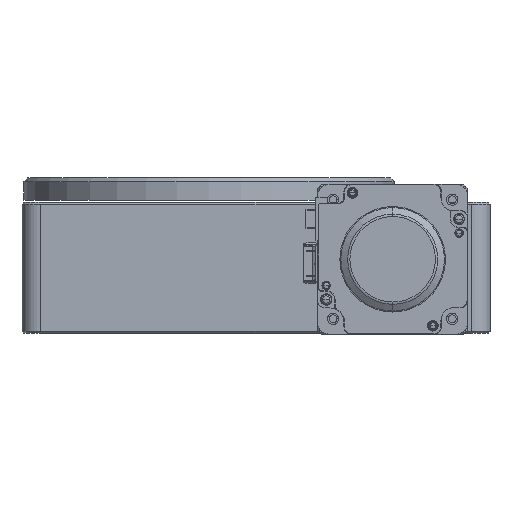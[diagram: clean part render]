
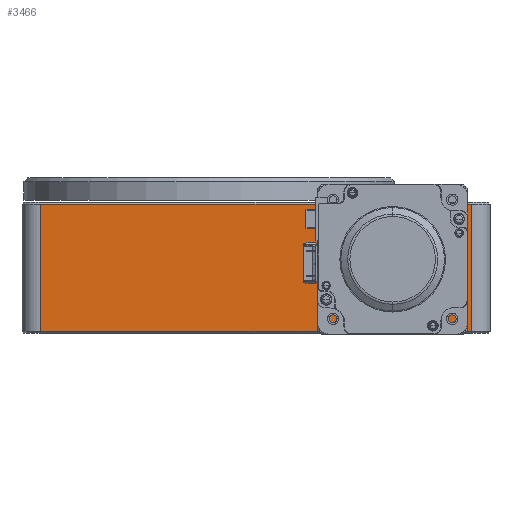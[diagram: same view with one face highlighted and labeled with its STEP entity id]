
A CAD part, front view. The second image highlights one B-rep face of the part: STEP entity #3466.
In plain terms, the highlighted planar face has unit normal (0, -1, 0).
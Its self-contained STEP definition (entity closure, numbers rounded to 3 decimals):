
#266 = LINE ( 'NONE', #1787, #16777 ) ;
#412 = VERTEX_POINT ( 'NONE', #13055 ) ;
#449 = VERTEX_POINT ( 'NONE', #14352 ) ;
#1787 = CARTESIAN_POINT ( 'NONE',  ( -106.055, -99.051, 319. ) ) ;
#1903 = DIRECTION ( 'NONE',  ( 1., 0., 0. ) ) ;
#2006 = DIRECTION ( 'NONE',  ( 0., -1., 0. ) ) ;
#2138 = ORIENTED_EDGE ( 'NONE', *, *, #5073, .F. ) ;
#2283 = ORIENTED_EDGE ( 'NONE', *, *, #6056, .T. ) ;
#3071 = ORIENTED_EDGE ( 'NONE', *, *, #15191, .F. ) ;
#3199 = CARTESIAN_POINT ( 'NONE',  ( 93.945, -99.051, 289.5 ) ) ;
#3466 = ADVANCED_FACE ( 'NONE', ( #16546, #8482 ), #13458, .F. ) ;
#3774 = ORIENTED_EDGE ( 'NONE', *, *, #15737, .T. ) ;
#4081 = DIRECTION ( 'NONE',  ( 0., 0., -1. ) ) ;
#4125 = ORIENTED_EDGE ( 'NONE', *, *, #9246, .F. ) ;
#4252 = CARTESIAN_POINT ( 'NONE',  ( -106.055, -99.051, 333. ) ) ;
#4493 = DIRECTION ( 'NONE',  ( 0., -1., 0. ) ) ;
#4550 = CARTESIAN_POINT ( 'NONE',  ( 81.945, -99.051, 289.5 ) ) ;
#5073 = EDGE_CURVE ( 'NONE', #412, #8276, #15853, .T. ) ;
#6006 = ORIENTED_EDGE ( 'NONE', *, *, #11577, .T. ) ;
#6056 = EDGE_CURVE ( 'NONE', #12892, #8276, #12946, .T. ) ;
#6058 = CARTESIAN_POINT ( 'NONE',  ( 81.945, -99.051, 289.5 ) ) ;
#6169 = EDGE_LOOP ( 'NONE', ( #3774, #2283, #2138, #6006 ) ) ;
#6351 = CARTESIAN_POINT ( 'NONE',  ( -106.055, -99.051, 251. ) ) ;
#6583 = VECTOR ( 'NONE', #13141, 1000. ) ;
#6882 = CARTESIAN_POINT ( 'NONE',  ( -106.055, -99.051, 333. ) ) ;
#7341 = CARTESIAN_POINT ( 'NONE',  ( 123.945, -99.051, 251. ) ) ;
#7875 = EDGE_LOOP ( 'NONE', ( #4125, #3071 ) ) ;
#8276 = VERTEX_POINT ( 'NONE', #7341 ) ;
#8482 = FACE_OUTER_BOUND ( 'NONE', #6169, .T. ) ;
#9246 = EDGE_CURVE ( 'NONE', #16663, #449, #14104, .T. ) ;
#9334 = CARTESIAN_POINT ( 'NONE',  ( 123.945, -99.051, 333. ) ) ;
#9727 = DIRECTION ( 'NONE',  ( 1., 0., 0. ) ) ;
#9845 = AXIS2_PLACEMENT_3D ( 'NONE', #4550, #4493, #9727 ) ;
#10116 = VERTEX_POINT ( 'NONE', #13541 ) ;
#11057 = DIRECTION ( 'NONE',  ( -1., 0., 0. ) ) ;
#11063 = LINE ( 'NONE', #4252, #13962 ) ;
#11469 = AXIS2_PLACEMENT_3D ( 'NONE', #6058, #2006, #1903 ) ;
#11502 = VECTOR ( 'NONE', #4081, 1000. ) ;
#11577 = EDGE_CURVE ( 'NONE', #412, #10116, #266, .T. ) ;
#12049 = DIRECTION ( 'NONE',  ( -1., 0., 0. ) ) ;
#12162 = DIRECTION ( 'NONE',  ( 0., 1., 0. ) ) ;
#12892 = VERTEX_POINT ( 'NONE', #6351 ) ;
#12946 = LINE ( 'NONE', #15920, #6583 ) ;
#13055 = CARTESIAN_POINT ( 'NONE',  ( 123.945, -99.051, 319. ) ) ;
#13141 = DIRECTION ( 'NONE',  ( 1., 0., 0. ) ) ;
#13458 = PLANE ( 'NONE',  #15302 ) ;
#13541 = CARTESIAN_POINT ( 'NONE',  ( -106.055, -99.051, 319. ) ) ;
#13556 = CIRCLE ( 'NONE', #9845, 12. ) ;
#13962 = VECTOR ( 'NONE', #14848, 1000. ) ;
#14104 = CIRCLE ( 'NONE', #11469, 12. ) ;
#14352 = CARTESIAN_POINT ( 'NONE',  ( 69.945, -99.051, 289.5 ) ) ;
#14848 = DIRECTION ( 'NONE',  ( 0., 0., -1. ) ) ;
#15191 = EDGE_CURVE ( 'NONE', #449, #16663, #13556, .T. ) ;
#15302 = AXIS2_PLACEMENT_3D ( 'NONE', #6882, #12162, #12049 ) ;
#15737 = EDGE_CURVE ( 'NONE', #10116, #12892, #11063, .T. ) ;
#15853 = LINE ( 'NONE', #9334, #11502 ) ;
#15920 = CARTESIAN_POINT ( 'NONE',  ( 123.945, -99.051, 251. ) ) ;
#16546 = FACE_BOUND ( 'NONE', #7875, .T. ) ;
#16663 = VERTEX_POINT ( 'NONE', #3199 ) ;
#16777 = VECTOR ( 'NONE', #11057, 1000. ) ;
